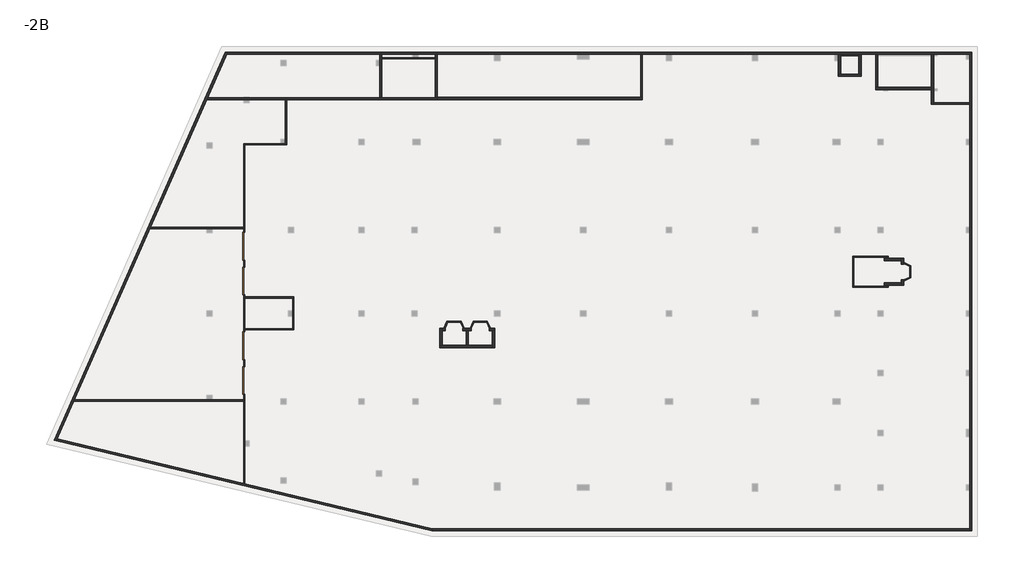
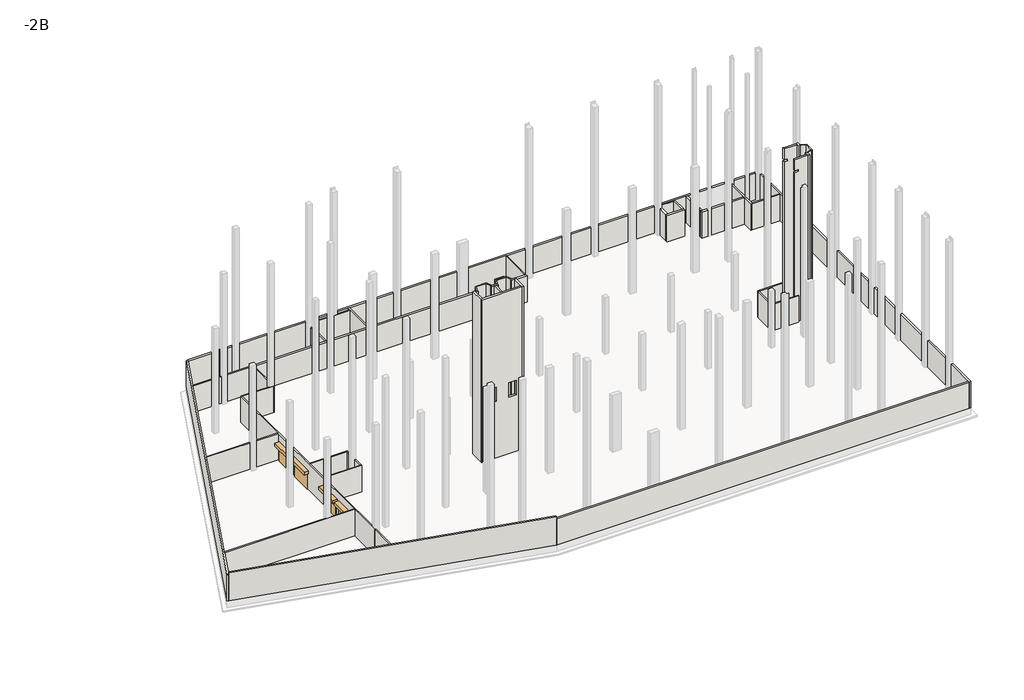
# One storey, part 1 of 2: 50 walls, 4 doors.
"""IFC4 building model written with IfcOpenShell, lengths in millimetres."""

from ifc_helpers import new_model, si_unit, frame, origin, place, context, project, spatial, polyline, outline, extrude, faceted_brep, transform, mapped, element, save
from components import m_overhead_rolling_3000_x_2400_5775203b, m_overhead_rolling_3000_x_2400_129daa51

model = new_model("IFC4")

# Units and contexts
model_context = context("Model", 3, world=origin())
ifc_project = project(units=[si_unit("LENGTHUNIT", "METRE", prefix="MILLI")], contexts=[model_context])

# Site, building, storey
site = spatial("IfcSite", under=ifc_project)
building = spatial("IfcBuilding", under=site)
storey = spatial("IfcBuildingStorey", under=building, Name="-2B", Elevation=-7500.0)

# Doors
placement = place(None, origin())
m_overhead_rolling_3000_x_2400_shape = m_overhead_rolling_3000_x_2400_5775203b(model_context)
element("IfcDoor", 1, ObjectType="M_Overhead-Rolling : 3000 x 2400", at=placement, inside=storey, context=model_context, shape_type="MappedRepresentation", body=[
    mapped(m_overhead_rolling_3000_x_2400_shape, transform((-35478.5865899, -3277.6148653, -7500.0), x_axis=(0.0, -1.0, 0.0), y_axis=(1.0, 0.0, 0.0), z_axis=(0.0, 0.0, 1.0))),
])
element("IfcDoor", 2, ObjectType="M_Overhead-Rolling : 3000 x 2400", at=placement, inside=storey, context=model_context, shape_type="MappedRepresentation", body=[
    mapped(m_overhead_rolling_3000_x_2400_shape, transform((-35478.5865899, 472.3851347, -7500.0), x_axis=(0.0, -1.0, 0.0), y_axis=(1.0, 0.0, 0.0), z_axis=(0.0, 0.0, 1.0))),
])
m_overhead_rolling_3000_x_2400_2_shape = m_overhead_rolling_3000_x_2400_129daa51(model_context)
element("IfcDoor", 3, ObjectType="M_Overhead-Rolling : 3000 x 2400", at=placement, inside=storey, context=model_context, shape_type="MappedRepresentation", body=[
    mapped(m_overhead_rolling_3000_x_2400_2_shape, transform((-35478.5865899, -10267.6148653, -7500.0), x_axis=(0.0, 1.0, 0.0), y_axis=(-1.0, 0.0, 0.0), z_axis=(0.0, 0.0, 1.0))),
])
element("IfcDoor", 4, ObjectType="M_Overhead-Rolling : 3000 x 2400", at=placement, inside=storey, context=model_context, shape_type="MappedRepresentation", body=[
    mapped(m_overhead_rolling_3000_x_2400_2_shape, transform((-35478.5865899, -14017.6148653, -7500.0), x_axis=(0.0, 1.0, 0.0), y_axis=(-1.0, 0.0, 0.0), z_axis=(0.0, 0.0, 1.0))),
])

# Walls
element("IfcWall", 5, ObjectType="Retaining - 230mm Concrete", at=placement, inside=storey, context=model_context, shape_type="Brep", body=[
    faceted_brep([(-37532.7792805, 21397.3851347, -7500.0), (-55964.7439578, -20459.7756347, -7500.0), (-55964.7439578, -20459.7756347, -3575.0), (-55959.4597108, -20447.7756347, -3575.0), (-53829.3970214, -15610.6148653, -3575.0), (-46126.2859605, 1882.3851347, -3575.0), (-37532.7792805, 21397.3851347, -3575.0), (-37281.466881, 21397.3851347, -7500.0), (-37281.466881, 21397.3851347, -3575.0), (-37382.7482818, 21167.3851347, -3575.0), (-39440.5221335, 16494.3851347, -3575.0), (-39553.69309, 16237.3851347, -3575.0), (-45598.2111245, 2510.8851347, -3575.0), (-45660.7413806, 2368.8851347, -3575.0), (-45874.973561, 1882.3851347, -3575.0), (-53578.0846218, -15610.6148653, -3575.0), (-53790.9957405, -16094.1148653, -3575.0), (-53853.5259966, -16236.1148653, -3575.0), (-55732.1393267, -20502.2591184, -3575.0), (-55737.3940597, -20514.192095, -3575.0), (-55737.3940597, -20514.192095, -7500.0), (-55643.1818049, -20300.2454233, -7500.0), (-53853.5259966, -16236.1148653, -7500.0), (-53790.9957405, -16094.1148653, -7500.0), (-45660.7413806, 2368.8851347, -7500.0), (-45598.2111245, 2510.8851347, -7500.0), (-39553.69309, 16237.3851347, -7500.0), (-39440.5221335, 16494.3851347, -7500.0), (-37382.7482818, 21167.3851347, -7500.0)], [[[0, 1, 2, 3, 4, 5, 6]], [[7, 8, 9, 10, 11, 12, 13, 14, 15, 16, 17, 18, 19, 20, 21, 22, 23, 24, 25, 26, 27, 28]], [[1, 0, 7, 28, 27, 26, 25, 24, 23, 22, 21, 20]], [[0, 6, 8, 7]], [[2, 1, 20, 19]], [[5, 4, 15, 14]], [[3, 2, 19, 18]], [[4, 3, 18, 17, 16, 15]], [[6, 5, 14, 13, 12, 11, 10, 9, 8]]]),
])
element("IfcWall", 6, ObjectType="Retaining - 230mm Concrete", at=placement, inside=storey, context=model_context, shape_type="Brep", body=[
    faceted_brep([(-55737.3940597, -20514.192095, -7500.0), (-15259.5328249, -30202.6148653, -7500.0), (-15259.5328249, -30202.6148653, -3300.0), (-55737.3940597, -20514.192095, -3300.0), (-55737.3940597, -20514.192095, -3575.0), (-15232.3907639, -29972.6148653, -7500.0), (-35407.5865899, -25143.658476, -7500.0), (-35549.5865899, -25109.6706122, -7500.0), (-55643.1818049, -20300.2454233, -7500.0), (-55643.1818049, -20300.2454233, -3575.0), (-55643.1818049, -20300.2454233, -3300.0), (-15232.3907639, -29972.6148653, -3300.0)], [[[0, 1, 2, 3, 4]], [[5, 6, 7, 8, 9, 10, 11]], [[1, 0, 8, 7, 6, 5]], [[3, 2, 11, 10]], [[2, 1, 5, 11]], [[3, 10, 9, 8, 0, 4]]]),
])
element("IfcWall", 7, ObjectType="Retaining - 230mm Concrete", at=placement, inside=storey, context=model_context, shape_type="Brep", body=[
    faceted_brep([(42962.4134101, 21397.3851347, -7500.0), (-37281.466881, 21397.3851347, -7500.0), (-37281.466881, 21397.3851347, -3575.0), (42962.4134101, 21397.3851347, -3575.0), (-37382.7482818, 21167.3851347, -7500.0), (-20894.5865899, 21167.3851347, -7500.0), (-20637.5865899, 21167.3851347, -7500.0), (-14914.5865899, 21167.3851347, -7500.0), (-14657.5865899, 21167.3851347, -7500.0), (7277.4134101, 21167.3851347, -7500.0), (7419.4134101, 21167.3851347, -7500.0), (32580.4134101, 21167.3851347, -7500.0), (32837.4134101, 21167.3851347, -7500.0), (38577.4134101, 21167.3851347, -7500.0), (38834.4134101, 21167.3851347, -7500.0), (42732.4134101, 21167.3851347, -7500.0), (42962.4134101, 21167.3851347, -7500.0), (42962.4134101, 21167.3851347, -3575.0), (42732.4134101, 21167.3851347, -3575.0), (38834.4134101, 21167.3851347, -3575.0), (38577.4134101, 21167.3851347, -3575.0), (32837.4134101, 21167.3851347, -3575.0), (32580.4134101, 21167.3851347, -3575.0), (7419.4134101, 21167.3851347, -3575.0), (7277.4134101, 21167.3851347, -3575.0), (-14657.5865899, 21167.3851347, -3575.0), (-14914.5865899, 21167.3851347, -3575.0), (-20637.5865899, 21167.3851347, -3575.0), (-20894.5865899, 21167.3851347, -3575.0), (-37382.7482818, 21167.3851347, -3575.0)], [[[0, 1, 2, 3]], [[4, 5, 6, 7, 8, 9, 10, 11, 12, 13, 14, 15, 16, 17, 18, 19, 20, 21, 22, 23, 24, 25, 26, 27, 28, 29]], [[1, 0, 16, 15, 14, 13, 12, 11, 10, 9, 8, 7, 6, 5, 4]], [[0, 3, 17, 16]], [[2, 1, 4, 29]], [[3, 2, 29, 28, 27, 26, 25, 24, 23, 22, 21, 20, 19, 18, 17]]]),
])
element("IfcWall", 8, ObjectType="Retaining - 230mm Concrete", at=placement, inside=storey, context=model_context, shape_type="Brep", body=[
    faceted_brep([(42962.4134101, -30202.6148653, -7500.0), (42962.4134101, 21167.3851347, -7500.0), (42962.4134101, 21167.3851347, -3575.0), (42962.4134101, -30202.6148653, -3575.0), (42732.4134101, -30202.6148653, -7500.0), (42732.4134101, -30202.6148653, -3575.0), (42732.4134101, -29972.6148653, -3575.0), (42732.4134101, 15789.6514713, -3575.0), (42732.4134101, 15931.6514713, -3575.0), (42732.4134101, 21167.3851347, -3575.0), (42732.4134101, 21167.3851347, -7500.0), (42732.4134101, 15931.6514713, -7500.0), (42732.4134101, 15789.6514713, -7500.0), (42732.4134101, -29972.6148653, -7500.0)], [[[0, 1, 2, 3]], [[4, 5, 6, 7, 8, 9, 10, 11, 12, 13]], [[1, 0, 4, 13, 12, 11, 10]], [[0, 3, 5, 4]], [[2, 1, 10, 9]], [[3, 2, 9, 8, 7, 6, 5]]]),
])
element("IfcWall", 9, ObjectType="Retaining - 230mm Concrete", at=placement, inside=storey, context=model_context, shape_type="SweptSolid", body=[
    extrude(outline(polyline([(42732.4134101, -30202.6148653), (-15259.5328249, -30202.6148653), (-15232.3907639, -29972.6148653), (42732.4134101, -29972.6148653), (42732.4134101, -30202.6148653)])), frame((0.0, 0.0, -7500.0), z_axis=(0.0, 0.0, 1.0), x_axis=(1.0, 0.0, 0.0)), (0.0, 0.0, 1.0), 3925.0),
])
element("IfcWall", 10, ObjectType="lift-glass", at=placement, inside=storey, context=model_context, shape_type="Brep", body=[
    faceted_brep([(-13832.8285254, -8397.6148653, -7500.0), (-13547.5865899, -7742.6148653, -7500.0), (-13493.151106, -7617.6148653, -7500.0), (-13493.151106, -7617.6148653, 16650.0), (-13547.5865899, -7742.6148653, 16650.0), (-13832.8285254, -8397.6148653, 16650.0), (-13629.4897356, -7617.6148653, -7500.0), (-13969.1671549, -8397.6148653, -7500.0), (-13969.1671549, -8397.6148653, 16650.0), (-13629.4897356, -7617.6148653, 16650.0)], [[[0, 1, 2, 3, 4, 5]], [[6, 7, 8, 9]], [[2, 1, 0, 7, 6]], [[5, 4, 3, 9, 8]], [[3, 2, 6, 9]], [[0, 5, 8, 7]]]),
])
element("IfcWall", 11, ObjectType="lift-glass", at=placement, inside=storey, context=model_context, shape_type="Brep", body=[
    faceted_brep([(-13547.5865899, -7742.6148653, -7500.0), (-12187.5865899, -7742.6148653, -7500.0), (-12051.2479604, -7742.6148653, -7500.0), (-12051.2479604, -7742.6148653, 16650.0), (-12187.5865899, -7742.6148653, 16650.0), (-13547.5865899, -7742.6148653, 16650.0), (-12105.6834442, -7617.6148653, -7500.0), (-13493.151106, -7617.6148653, -7500.0), (-13493.151106, -7617.6148653, 16650.0), (-12105.6834442, -7617.6148653, 16650.0)], [[[0, 1, 2, 3, 4, 5]], [[6, 7, 8, 9]], [[2, 1, 0, 7, 6]], [[5, 4, 3, 9, 8]], [[3, 2, 6, 9]], [[0, 5, 8, 7]]]),
])
element("IfcWall", 12, ObjectType="lift-glass", at=placement, inside=storey, context=model_context, shape_type="SweptSolid", body=[
    extrude(outline(polyline([(-11902.3446544, -8397.6148653), (-12187.5865899, -7742.6148653), (-12051.2479604, -7742.6148653), (-11766.0060249, -8397.6148653), (-11902.3446544, -8397.6148653)])), frame((0.0, 0.0, -7500.0), z_axis=(0.0, 0.0, 1.0), x_axis=(1.0, 0.0, 0.0)), (0.0, 0.0, 1.0), 24150.0),
])
element("IfcWall", 13, ObjectType="lift-glass", at=placement, inside=storey, context=model_context, shape_type="Brep", body=[
    faceted_brep([(-11002.8285254, -8397.6148653, -7500.0), (-10717.5865899, -7742.6148653, -7500.0), (-10663.151106, -7617.6148653, -7500.0), (-10663.151106, -7617.6148653, 16650.0), (-10717.5865899, -7742.6148653, 16650.0), (-11002.8285254, -8397.6148653, 16650.0), (-10799.4897356, -7617.6148653, -7500.0), (-11139.1671549, -8397.6148653, -7500.0), (-11139.1671549, -8397.6148653, 16650.0), (-10799.4897356, -7617.6148653, 16650.0)], [[[0, 1, 2, 3, 4, 5]], [[6, 7, 8, 9]], [[2, 1, 0, 7, 6]], [[5, 4, 3, 9, 8]], [[3, 2, 6, 9]], [[0, 5, 8, 7]]]),
])
element("IfcWall", 14, ObjectType="lift-glass", at=placement, inside=storey, context=model_context, shape_type="Brep", body=[
    faceted_brep([(-10717.5865899, -7742.6148653, -7500.0), (-9357.5865899, -7742.6148653, -7500.0), (-9221.2479604, -7742.6148653, -7500.0), (-9221.2479604, -7742.6148653, 16650.0), (-9357.5865899, -7742.6148653, 16650.0), (-10717.5865899, -7742.6148653, 16650.0), (-9275.6834442, -7617.6148653, -7500.0), (-10663.151106, -7617.6148653, -7500.0), (-10663.151106, -7617.6148653, 16650.0), (-9275.6834442, -7617.6148653, 16650.0)], [[[0, 1, 2, 3, 4, 5]], [[6, 7, 8, 9]], [[2, 1, 0, 7, 6]], [[5, 4, 3, 9, 8]], [[3, 2, 6, 9]], [[0, 5, 8, 7]]]),
])
element("IfcWall", 15, ObjectType="lift-glass", at=placement, inside=storey, context=model_context, shape_type="SweptSolid", body=[
    extrude(outline(polyline([(-9072.3446544, -8397.6148653), (-9357.5865899, -7742.6148653), (-9221.2479604, -7742.6148653), (-8936.0060249, -8397.6148653), (-9072.3446544, -8397.6148653)])), frame((0.0, 0.0, -7500.0), z_axis=(0.0, 0.0, 1.0), x_axis=(1.0, 0.0, 0.0)), (0.0, 0.0, 1.0), 24150.0),
])
element("IfcWall", 16, ObjectType="lift-glass", at=placement, inside=storey, context=model_context, shape_type="Brep", body=[
    faceted_brep([(35607.4134101, -1422.415349, -7500.0), (36262.4134101, -1707.6572845, -7500.0), (36387.4134101, -1762.0927684, -7500.0), (36387.4134101, -1762.0927684, 16650.0), (36262.4134101, -1707.6572845, 16650.0), (35607.4134101, -1422.415349, 16650.0), (36387.4134101, -1625.7541388, -7500.0), (35607.4134101, -1286.0767195, -7500.0), (35607.4134101, -1286.0767195, 16650.0), (36387.4134101, -1625.7541388, 16650.0)], [[[0, 1, 2, 3, 4, 5]], [[6, 7, 8, 9]], [[2, 1, 0, 7, 6]], [[5, 4, 3, 9, 8]], [[3, 2, 6, 9]], [[0, 5, 8, 7]]]),
])
element("IfcWall", 17, ObjectType="lift-glass", at=placement, inside=storey, context=model_context, shape_type="Brep", body=[
    faceted_brep([(36262.4134101, -1707.6572845, -7500.0), (36262.4134101, -2867.6572845, -7500.0), (36262.4134101, -3003.995914, -7500.0), (36262.4134101, -3003.995914, 16650.0), (36262.4134101, -2867.6572845, 16650.0), (36262.4134101, -1707.6572845, 16650.0), (36387.4134101, -2949.5604302, -7500.0), (36387.4134101, -1762.0927684, -7500.0), (36387.4134101, -1762.0927684, 16650.0), (36387.4134101, -2949.5604302, 16650.0)], [[[0, 1, 2, 3, 4, 5]], [[6, 7, 8, 9]], [[2, 1, 0, 7, 6]], [[5, 4, 3, 9, 8]], [[3, 2, 6, 9]], [[0, 5, 8, 7]]]),
])
element("IfcWall", 18, ObjectType="lift-glass", at=placement, inside=storey, context=model_context, shape_type="SweptSolid", body=[
    extrude(outline(polyline([(35607.4134101, -3152.89922), (36262.4134101, -2867.6572845), (36262.4134101, -3003.995914), (35607.4134101, -3289.2378495), (35607.4134101, -3152.89922)])), frame((0.0, 0.0, -7500.0), z_axis=(0.0, 0.0, 1.0), x_axis=(1.0, 0.0, 0.0)), (0.0, 0.0, 1.0), 24150.0),
])
element("IfcWall", 19, ObjectType="wall-115", at=placement, inside=storey, context=model_context, shape_type="Brep", body=[
    faceted_brep([(-31064.5865899, 16237.3851347, -7500.0), (-31064.5865899, 11524.3851347, -7500.0), (-31064.5865899, 11382.3851347, -7500.0), (-31064.5865899, 11382.3851347, -3575.0), (-31064.5865899, 11524.3851347, -3575.0), (-31064.5865899, 16237.3851347, -3575.0), (-30922.5865899, 16237.3851347, -7500.0), (-30922.5865899, 16237.3851347, -3575.0), (-30922.5865899, 11382.3851347, -3575.0), (-30922.5865899, 11382.3851347, -7500.0)], [[[0, 1, 2, 3, 4, 5]], [[6, 7, 8, 9]], [[2, 1, 0, 6, 9]], [[3, 2, 9, 8]], [[0, 5, 7, 6]], [[5, 4, 3, 8, 7]]]),
])
element("IfcWall", 20, ObjectType="wall-115", at=placement, inside=storey, context=model_context, shape_type="Brep", body=[
    faceted_brep([(33947.4134101, -594.1148653, -7500.0), (30103.9134101, -594.1148653, -7500.0), (30103.9134101, -594.1148653, -3575.0), (33947.4134101, -594.1148653, -3575.0), (33947.4134101, -736.1148653, -7500.0), (33947.4134101, -736.1148653, -3575.0), (30245.9134101, -736.1148653, -3575.0), (30103.9134101, -736.1148653, -3575.0), (30103.9134101, -736.1148653, -7500.0), (30245.9134101, -736.1148653, -7500.0)], [[[0, 1, 2, 3]], [[4, 5, 6, 7, 8, 9]], [[1, 0, 4, 9, 8]], [[0, 3, 5, 4]], [[2, 1, 8, 7]], [[3, 2, 7, 6, 5]]]),
])
element("IfcWall", 21, ObjectType="wall-115", at=placement, inside=storey, context=model_context, shape_type="Brep", body=[
    faceted_brep([(33947.4134101, -3839.1148653, -7500.0), (30245.9134101, -3839.1148653, -7500.0), (30103.9134101, -3839.1148653, -7500.0), (30103.9134101, -3839.1148653, -3575.0), (30245.9134101, -3839.1148653, -3575.0), (33947.4134101, -3839.1148653, -3575.0), (33947.4134101, -3981.1148653, -7500.0), (33947.4134101, -3981.1148653, -3575.0), (30103.9134101, -3981.1148653, -3575.0), (30103.9134101, -3981.1148653, -7500.0)], [[[0, 1, 2, 3, 4, 5]], [[6, 7, 8, 9]], [[2, 1, 0, 6, 9]], [[0, 5, 7, 6]], [[3, 2, 9, 8]], [[5, 4, 3, 8, 7]]]),
])
element("IfcWall", 22, ObjectType="wall-115", at=placement, inside=storey, context=model_context, shape_type="SweptSolid", body=[
    extrude(outline(polyline([(30103.9134101, -3839.1148653), (30103.9134101, -736.1148653), (30245.9134101, -736.1148653), (30245.9134101, -3839.1148653), (30103.9134101, -3839.1148653)])), frame((0.0, 0.0, -7500.0), z_axis=(0.0, 0.0, 1.0), x_axis=(1.0, 0.0, 0.0)), (0.0, 0.0, 1.0), 3925.0),
])
element("IfcWall", 23, ObjectType="wall-115", at=placement, inside=storey, context=model_context, shape_type="Brep", body=[
    faceted_brep([(-35549.5865899, -11767.6148653, -7500.0), (-35549.5865899, -12517.6148653, -7500.0), (-35549.5865899, -12517.6148653, -5100.0), (-35549.5865899, -15517.6148653, -5100.0), (-35549.5865899, -15517.6148653, -7500.0), (-35549.5865899, -16094.1148653, -7500.0), (-35549.5865899, -16236.1148653, -7500.0), (-35549.5865899, -25109.6706122, -7500.0), (-35549.5865899, -25109.6706122, -3575.0), (-35549.5865899, -16236.1148653, -3575.0), (-35549.5865899, -16094.1148653, -3575.0), (-35549.5865899, -15610.6148653, -3575.0), (-35549.5865899, 1882.3851347, -3575.0), (-35549.5865899, 2368.8851347, -3575.0), (-35549.5865899, 2510.8851347, -3575.0), (-35549.5865899, 11524.3851347, -3575.0), (-35549.5865899, 11524.3851347, -7500.0), (-35549.5865899, 2510.8851347, -7500.0), (-35549.5865899, 2368.8851347, -7500.0), (-35549.5865899, 1972.3851347, -7500.0), (-35549.5865899, 1972.3851347, -5100.0), (-35549.5865899, -1027.6148653, -5100.0), (-35549.5865899, -1027.6148653, -7500.0), (-35549.5865899, -1777.6148653, -7500.0), (-35549.5865899, -1777.6148653, -5100.0), (-35549.5865899, -4777.6148653, -5100.0), (-35549.5865899, -4777.6148653, -7500.0), (-35549.5865899, -8767.6148653, -7500.0), (-35549.5865899, -8767.6148653, -5100.0), (-35549.5865899, -11767.6148653, -5100.0), (-35407.5865899, -12517.6148653, -5100.0), (-35407.5865899, -12517.6148653, -7500.0), (-35407.5865899, -11767.6148653, -7500.0), (-35407.5865899, -11767.6148653, -5100.0), (-35407.5865899, -8767.6148653, -5100.0), (-35407.5865899, -8767.6148653, -7500.0), (-35407.5865899, -8552.6148653, -7500.0), (-35407.5865899, -8410.6148653, -7500.0), (-35407.5865899, -5137.6148653, -7500.0), (-35407.5865899, -4995.6148653, -7500.0), (-35407.5865899, -4777.6148653, -7500.0), (-35407.5865899, -4777.6148653, -5100.0), (-35407.5865899, -1777.6148653, -5100.0), (-35407.5865899, -1777.6148653, -7500.0), (-35407.5865899, -1027.6148653, -7500.0), (-35407.5865899, -1027.6148653, -5100.0), (-35407.5865899, 1972.3851347, -5100.0), (-35407.5865899, 1972.3851347, -7500.0), (-35407.5865899, 11382.3851347, -7500.0), (-35407.5865899, 11524.3851347, -7500.0), (-35407.5865899, 11524.3851347, -3575.0), (-35407.5865899, 11382.3851347, -3575.0), (-35407.5865899, -4995.6148653, -3575.0), (-35407.5865899, -5137.6148653, -3575.0), (-35407.5865899, -8410.6148653, -3575.0), (-35407.5865899, -8552.6148653, -3575.0), (-35407.5865899, -25143.658476, -3575.0), (-35407.5865899, -25143.658476, -7500.0), (-35407.5865899, -15517.6148653, -7500.0), (-35407.5865899, -15517.6148653, -5100.0)], [[[0, 1, 2, 3, 4, 5, 6, 7, 8, 9, 10, 11, 12, 13, 14, 15, 16, 17, 18, 19, 20, 21, 22, 23, 24, 25, 26, 27, 28, 29]], [[30, 31, 32, 33, 34, 35, 36, 37, 38, 39, 40, 41, 42, 43, 44, 45, 46, 47, 48, 49, 50, 51, 52, 53, 54, 55, 56, 57, 58, 59]], [[40, 39, 38, 37, 36, 35, 27, 26]], [[23, 22, 44, 43]], [[19, 18, 17, 16, 49, 48, 47]], [[32, 31, 1, 0]], [[58, 57, 7, 6, 5, 4]], [[16, 15, 50, 49]], [[8, 7, 57, 56]], [[15, 14, 13, 12, 11, 10, 9, 8, 56, 55, 54, 53, 52, 51, 50]], [[41, 40, 26, 25]], [[42, 41, 25, 24]], [[43, 42, 24, 23]], [[45, 44, 22, 21]], [[46, 45, 21, 20]], [[47, 46, 20, 19]], [[28, 27, 35, 34]], [[29, 28, 34, 33]], [[0, 29, 33, 32]], [[2, 1, 31, 30]], [[3, 2, 30, 59]], [[4, 3, 59, 58]]]),
])
element("IfcWall", 24, ObjectType="wall-115", at=placement, inside=storey, context=model_context, shape_type="Brep", body=[
    faceted_brep([(-30125.5865899, -8410.6148653, -7500.0), (-30267.5865899, -8410.6148653, -7500.0), (-35407.5865899, -8410.6148653, -7500.0), (-35407.5865899, -8410.6148653, -3575.0), (-30267.5865899, -8410.6148653, -3575.0), (-30125.5865899, -8410.6148653, -3575.0), (-30125.5865899, -8552.6148653, -7500.0), (-30125.5865899, -8552.6148653, -3575.0), (-35407.5865899, -8552.6148653, -3575.0), (-35407.5865899, -8552.6148653, -7500.0)], [[[0, 1, 2, 3, 4, 5]], [[6, 7, 8, 9]], [[2, 1, 0, 6, 9]], [[0, 5, 7, 6]], [[3, 2, 9, 8]], [[5, 4, 3, 8, 7]]]),
])
element("IfcWall", 25, ObjectType="wall-115", at=placement, inside=storey, context=model_context, shape_type="Brep", body=[
    faceted_brep([(-30125.5865899, -4995.6148653, -7500.0), (-35407.5865899, -4995.6148653, -7500.0), (-35407.5865899, -4995.6148653, -3575.0), (-30125.5865899, -4995.6148653, -3575.0), (-30125.5865899, -5137.6148653, -7500.0), (-30125.5865899, -5137.6148653, -3575.0), (-30267.5865899, -5137.6148653, -3575.0), (-35407.5865899, -5137.6148653, -3575.0), (-35407.5865899, -5137.6148653, -7500.0), (-30267.5865899, -5137.6148653, -7500.0)], [[[0, 1, 2, 3]], [[4, 5, 6, 7, 8, 9]], [[1, 0, 4, 9, 8]], [[0, 3, 5, 4]], [[2, 1, 8, 7]], [[3, 2, 7, 6, 5]]]),
])
element("IfcWall", 26, ObjectType="wall-115", at=placement, inside=storey, context=model_context, shape_type="SweptSolid", body=[
    extrude(outline(polyline([(-30125.5865899, -5137.6148653), (-30125.5865899, -8410.6148653), (-30267.5865899, -8410.6148653), (-30267.5865899, -5137.6148653), (-30125.5865899, -5137.6148653)])), frame((0.0, 0.0, -7500.0), z_axis=(0.0, 0.0, 1.0), x_axis=(1.0, 0.0, 0.0)), (0.0, 0.0, 1.0), 3925.0),
])
element("IfcWall", 27, ObjectType="wall-115", at=placement, inside=storey, context=model_context, shape_type="SweptSolid", body=[
    extrude(outline(polyline([(-35407.5865899, 11524.3851347), (-31064.5865899, 11524.3851347), (-31064.5865899, 11382.3851347), (-35407.5865899, 11382.3851347), (-35407.5865899, 11524.3851347)])), frame((0.0, 0.0, -7500.0), z_axis=(0.0, 0.0, 1.0), x_axis=(1.0, 0.0, 0.0)), (0.0, 0.0, 1.0), 3925.0),
])
element("IfcWall", 28, ObjectType="wall-115", at=placement, inside=storey, context=model_context, shape_type="SweptSolid", body=[
    extrude(outline(polyline([(-45598.2111245, 2510.8851347), (-35549.5865899, 2510.8851347), (-35549.5865899, 2368.8851347), (-45660.7413806, 2368.8851347), (-45598.2111245, 2510.8851347)])), frame((0.0, 0.0, -7500.0), z_axis=(0.0, 0.0, 1.0), x_axis=(1.0, 0.0, 0.0)), (0.0, 0.0, 1.0), 3925.0),
])
element("IfcWall", 29, ObjectType="wall-115", at=placement, inside=storey, context=model_context, shape_type="SweptSolid", body=[
    extrude(outline(polyline([(7419.4134101, 21167.3851347), (7419.4134101, 16514.3851347), (7277.4134101, 16514.3851347), (7277.4134101, 21167.3851347), (7419.4134101, 21167.3851347)])), frame((0.0, 0.0, -7500.0), z_axis=(0.0, 0.0, 1.0), x_axis=(1.0, 0.0, 0.0)), (0.0, 0.0, 1.0), 3925.0),
])
element("IfcWall", 30, ObjectType="wall-115", at=placement, inside=storey, context=model_context, shape_type="SweptSolid", body=[
    extrude(outline(polyline([(-53790.9957405, -16094.1148653), (-35549.5865899, -16094.1148653), (-35549.5865899, -16236.1148653), (-53853.5259966, -16236.1148653), (-53790.9957405, -16094.1148653)])), frame((0.0, 0.0, -7500.0), z_axis=(0.0, 0.0, 1.0), x_axis=(1.0, 0.0, 0.0)), (0.0, 0.0, 1.0), 3925.0),
])
element("IfcWall", 31, ObjectType="wall-115", at=placement, inside=storey, context=model_context, shape_type="SweptSolid", body=[
    extrude(outline(polyline([(28802.4134101, 21144.3851347), (30772.4134101, 21144.3851347), (30772.4134101, 21002.3851347), (28802.4134101, 21002.3851347), (28802.4134101, 21144.3851347)])), frame((0.0, 0.0, -7500.0), z_axis=(0.0, 0.0, 1.0), x_axis=(1.0, 0.0, 0.0)), (0.0, 0.0, 1.0), 3925.0),
])
element("IfcWall", 32, ObjectType="wall-115", at=placement, inside=storey, context=model_context, shape_type="SweptSolid", body=[
    extrude(outline(polyline([(42732.4134101, 15789.6514713), (38834.4134101, 15789.6514713), (38834.4134101, 15931.6514713), (42732.4134101, 15931.6514713), (42732.4134101, 15789.6514713)])), frame((0.0, 0.0, -7500.0), z_axis=(0.0, 0.0, 1.0), x_axis=(1.0, 0.0, 0.0)), (0.0, 0.0, 1.0), 3925.0),
])
element("IfcWall", 33, ObjectType="wall-115", at=placement, inside=storey, context=model_context, shape_type="SweptSolid", body=[
    extrude(outline(polyline([(-14914.5865899, 20655.3851347), (-20637.5865899, 20655.3851347), (-20637.5865899, 20797.3851347), (-14914.5865899, 20797.3851347), (-14914.5865899, 20655.3851347)])), frame((0.0, 0.0, -7500.0), z_axis=(0.0, 0.0, 1.0), x_axis=(1.0, 0.0, 0.0)), (0.0, 0.0, 1.0), 3925.0),
])
element("IfcWall", 34, ObjectType="wall-230", at=placement, inside=storey, context=model_context, shape_type="Brep", body=[
    faceted_brep([(-14657.5865899, 16494.3851347, -7500.0), (-14914.5865899, 16494.3851347, -7500.0), (-20637.5865899, 16494.3851347, -7500.0), (-20894.5865899, 16494.3851347, -7500.0), (-39440.5221335, 16494.3851347, -7500.0), (-39440.5221335, 16494.3851347, -3575.0), (-20894.5865899, 16494.3851347, -3575.0), (-20637.5865899, 16494.3851347, -3575.0), (-14914.5865899, 16494.3851347, -3575.0), (-14657.5865899, 16494.3851347, -3575.0), (-14657.5865899, 16237.3851347, -7500.0), (-14657.5865899, 16237.3851347, -3575.0), (-30922.5865899, 16237.3851347, -3575.0), (-31064.5865899, 16237.3851347, -3575.0), (-39553.69309, 16237.3851347, -3575.0), (-39553.69309, 16237.3851347, -7500.0), (-31064.5865899, 16237.3851347, -7500.0), (-30922.5865899, 16237.3851347, -7500.0), (-14657.5865899, 16257.3851347, -7500.0), (-14657.5865899, 16257.3851347, -3575.0)], [[[0, 1, 2, 3, 4, 5, 6, 7, 8, 9]], [[10, 11, 12, 13, 14, 15, 16, 17]], [[4, 3, 2, 1, 0, 18, 10, 17, 16, 15]], [[0, 9, 19, 11, 10, 18]], [[5, 4, 15, 14]], [[9, 8, 7, 6, 5, 14, 13, 12, 11, 19]]]),
])
element("IfcWall", 35, ObjectType="wall-230", at=placement, inside=storey, context=model_context, shape_type="Brep", body=[
    faceted_brep([(-9087.5865899, -8654.6148653, -7500.0), (-8749.5865899, -8654.6148653, -7500.0), (-8492.5865899, -8654.6148653, -7500.0), (-8492.5865899, -8654.6148653, -3300.0), (-8495.5865899, -8654.6148653, -3300.0), (-8637.5865899, -8654.6148653, -3300.0), (-8637.5865899, -8654.6148653, 0.0), (-8495.5865899, -8654.6148653, 0.0), (-8492.5865899, -8654.6148653, 0.0), (-8492.5865899, -8654.6148653, 16650.0), (-8749.5865899, -8654.6148653, 16650.0), (-9087.5865899, -8654.6148653, 16650.0), (-8492.5865899, -8397.6148653, -7500.0), (-8936.0060249, -8397.6148653, -7500.0), (-9072.3446544, -8397.6148653, -7500.0), (-9087.5865899, -8397.6148653, -7500.0), (-9087.5865899, -8397.6148653, 16650.0), (-9072.3446544, -8397.6148653, 16650.0), (-8936.0060249, -8397.6148653, 16650.0), (-8492.5865899, -8397.6148653, 16650.0), (-8492.5865899, -8397.6148653, 0.0), (-8637.5865899, -8397.6148653, 0.0), (-8637.5865899, -8397.6148653, -3300.0), (-8492.5865899, -8397.6148653, -3300.0)], [[[0, 1, 2, 3, 4, 5, 6, 7, 8, 9, 10, 11]], [[12, 13, 14, 15, 16, 17, 18, 19, 20, 21, 22, 23]], [[2, 1, 0, 15, 14, 13, 12]], [[11, 10, 9, 19, 18, 17, 16]], [[0, 11, 16, 15]], [[5, 4, 3, 23, 22]], [[8, 7, 6, 21, 20]], [[3, 2, 12, 23]], [[6, 5, 22, 21]], [[9, 8, 20, 19]]]),
])
element("IfcWall", 36, ObjectType="wall-230", at=placement, inside=storey, context=model_context, shape_type="Brep", body=[
    faceted_brep([(-8749.5865899, -8654.6148653, -7500.0), (-8749.5865899, -10230.6148653, -7500.0), (-8749.5865899, -10487.6148653, -7500.0), (-8749.5865899, -10487.6148653, 16650.0), (-8749.5865899, -10230.6148653, 16650.0), (-8749.5865899, -8654.6148653, 16650.0), (-8492.5865899, -10487.6148653, -7500.0), (-8492.5865899, -8654.6148653, -7500.0), (-8492.5865899, -8654.6148653, -3300.0), (-8492.5865899, -8654.6148653, 0.0), (-8492.5865899, -8654.6148653, 16650.0), (-8492.5865899, -10487.6148653, 16650.0)], [[[0, 1, 2, 3, 4, 5]], [[6, 7, 8, 9, 10, 11]], [[2, 1, 0, 7, 6]], [[5, 4, 3, 11, 10]], [[3, 2, 6, 11]], [[7, 0, 5, 10, 9, 8]]]),
])
element("IfcWall", 37, ObjectType="wall-230", at=placement, inside=storey, context=model_context, shape_type="Brep", body=[
    faceted_brep([(-8749.5865899, -10230.6148653, -7500.0), (-11322.5865899, -10230.6148653, -7500.0), (-11579.5865899, -10230.6148653, -7500.0), (-14155.5865899, -10230.6148653, -7500.0), (-14412.5865899, -10230.6148653, -7500.0), (-14412.5865899, -10230.6148653, 16650.0), (-14155.5865899, -10230.6148653, 16650.0), (-11579.5865899, -10230.6148653, 16650.0), (-11322.5865899, -10230.6148653, 16650.0), (-8749.5865899, -10230.6148653, 16650.0), (-12342.5865899, -10230.6148653, 3000.0), (-13392.5865899, -10230.6148653, 3000.0), (-13392.5865899, -10230.6148653, 900.0), (-12342.5865899, -10230.6148653, 900.0), (-9512.5865899, -10230.6148653, 3000.0), (-10562.5865899, -10230.6148653, 3000.0), (-10562.5865899, -10230.6148653, 900.0), (-9512.5865899, -10230.6148653, 900.0), (-14412.5865899, -10487.6148653, -7500.0), (-8749.5865899, -10487.6148653, -7500.0), (-8749.5865899, -10487.6148653, 16650.0), (-14412.5865899, -10487.6148653, 16650.0), (-13392.5865899, -10487.6148653, 3000.0), (-12342.5865899, -10487.6148653, 3000.0), (-12342.5865899, -10487.6148653, 900.0), (-13392.5865899, -10487.6148653, 900.0), (-10562.5865899, -10487.6148653, 3000.0), (-9512.5865899, -10487.6148653, 3000.0), (-9512.5865899, -10487.6148653, 900.0), (-10562.5865899, -10487.6148653, 900.0)], [[[0, 1, 2, 3, 4, 5, 6, 7, 8, 9], [10, 11, 12, 13], [14, 15, 16, 17]], [[18, 19, 20, 21], [22, 23, 24, 25], [26, 27, 28, 29]], [[4, 3, 2, 1, 0, 19, 18]], [[9, 8, 7, 6, 5, 21, 20]], [[5, 4, 18, 21]], [[0, 9, 20, 19]], [[10, 23, 22, 11]], [[25, 12, 11, 22]], [[12, 25, 24, 13]], [[23, 10, 13, 24]], [[15, 14, 27, 26]], [[16, 15, 26, 29]], [[17, 16, 29, 28]], [[14, 17, 28, 27]]]),
])
element("IfcWall", 38, ObjectType="wall-230", at=placement, inside=storey, context=model_context, shape_type="Brep", body=[
    faceted_brep([(-14155.5865899, -10230.6148653, -7500.0), (-14155.5865899, -8654.6148653, -7500.0), (-14155.5865899, -8397.6148653, -7500.0), (-14155.5865899, -8397.6148653, 16650.0), (-14155.5865899, -8654.6148653, 16650.0), (-14155.5865899, -10230.6148653, 16650.0), (-14412.5865899, -8397.6148653, -7500.0), (-14412.5865899, -10230.6148653, -7500.0), (-14412.5865899, -10230.6148653, 16650.0), (-14412.5865899, -8397.6148653, 16650.0)], [[[0, 1, 2, 3, 4, 5]], [[6, 7, 8, 9]], [[2, 1, 0, 7, 6]], [[5, 4, 3, 9, 8]], [[2, 6, 9, 3]], [[0, 5, 8, 7]]]),
])
element("IfcWall", 39, ObjectType="wall-230", at=placement, inside=storey, context=model_context, shape_type="Brep", body=[
    faceted_brep([(-14155.5865899, -8654.6148653, -7500.0), (-13817.5865899, -8654.6148653, -7500.0), (-13817.5865899, -8654.6148653, 16650.0), (-14155.5865899, -8654.6148653, 16650.0), (-13817.5865899, -8397.6148653, -7500.0), (-13832.8285254, -8397.6148653, -7500.0), (-13969.1671549, -8397.6148653, -7500.0), (-14155.5865899, -8397.6148653, -7500.0), (-14155.5865899, -8397.6148653, 16650.0), (-13969.1671549, -8397.6148653, 16650.0), (-13832.8285254, -8397.6148653, 16650.0), (-13817.5865899, -8397.6148653, 16650.0)], [[[0, 1, 2, 3]], [[4, 5, 6, 7, 8, 9, 10, 11]], [[1, 0, 7, 6, 5, 4]], [[2, 1, 4, 11]], [[3, 2, 11, 10, 9, 8]], [[7, 0, 3, 8]]]),
])
element("IfcWall", 40, ObjectType="wall-230", at=placement, inside=storey, context=model_context, shape_type="Brep", body=[
    faceted_brep([(-11917.5865899, -8654.6148653, -7500.0), (-11579.5865899, -8654.6148653, -7500.0), (-11322.5865899, -8654.6148653, -7500.0), (-10987.5865899, -8654.6148653, -7500.0), (-10987.5865899, -8654.6148653, 16650.0), (-11322.5865899, -8654.6148653, 16650.0), (-11579.5865899, -8654.6148653, 16650.0), (-11917.5865899, -8654.6148653, 16650.0), (-10987.5865899, -8397.6148653, -7500.0), (-11002.8285254, -8397.6148653, -7500.0), (-11139.1671549, -8397.6148653, -7500.0), (-11766.0060249, -8397.6148653, -7500.0), (-11902.3446544, -8397.6148653, -7500.0), (-11917.5865899, -8397.6148653, -7500.0), (-11917.5865899, -8397.6148653, 16650.0), (-11902.3446544, -8397.6148653, 16650.0), (-11766.0060249, -8397.6148653, 16650.0), (-11139.1671549, -8397.6148653, 16650.0), (-11002.8285254, -8397.6148653, 16650.0), (-10987.5865899, -8397.6148653, 16650.0)], [[[0, 1, 2, 3, 4, 5, 6, 7]], [[8, 9, 10, 11, 12, 13, 14, 15, 16, 17, 18, 19]], [[3, 2, 1, 0, 13, 12, 11, 10, 9, 8]], [[4, 3, 8, 19]], [[7, 6, 5, 4, 19, 18, 17, 16, 15, 14]], [[0, 7, 14, 13]]]),
])
element("IfcWall", 41, ObjectType="wall-230", at=placement, inside=storey, context=model_context, shape_type="SweptSolid", body=[
    extrude(outline(polyline([(-11579.5865899, -10230.6148653), (-11579.5865899, -8654.6148653), (-11322.5865899, -8654.6148653), (-11322.5865899, -10230.6148653), (-11579.5865899, -10230.6148653)])), frame((0.0, 0.0, -7500.0), z_axis=(0.0, 0.0, 1.0), x_axis=(1.0, 0.0, 0.0)), (0.0, 0.0, 1.0), 24150.0),
])
element("IfcWall", 42, ObjectType="wall-230", at=placement, inside=storey, context=model_context, shape_type="Brep", body=[
    faceted_brep([(35350.4134101, -3137.6572845, -7500.0), (35350.4134101, -3475.6572845, -7500.0), (35350.4134101, -3732.6572845, -7500.0), (35350.4134101, -3732.6572845, 16650.0), (35350.4134101, -3475.6572845, 16650.0), (35350.4134101, -3137.6572845, 16650.0), (35607.4134101, -3732.6572845, -7500.0), (35607.4134101, -3289.2378495, -7500.0), (35607.4134101, -3152.89922, -7500.0), (35607.4134101, -3137.6572845, -7500.0), (35607.4134101, -3137.6572845, 16650.0), (35607.4134101, -3152.89922, 16650.0), (35607.4134101, -3289.2378495, 16650.0), (35607.4134101, -3732.6572845, 16650.0)], [[[0, 1, 2, 3, 4, 5]], [[6, 7, 8, 9, 10, 11, 12, 13]], [[2, 1, 0, 9, 8, 7, 6]], [[5, 4, 3, 13, 12, 11, 10]], [[0, 5, 10, 9]], [[3, 2, 6, 13]]]),
])
element("IfcWall", 43, ObjectType="wall-230", at=placement, inside=storey, context=model_context, shape_type="Brep", body=[
    faceted_brep([(33520.4134101, -1099.6572845, -7500.0), (35350.4134101, -1099.6572845, -7500.0), (35350.4134101, -1099.6572845, 16650.0), (33520.4134101, -1099.6572845, 16650.0), (33520.4134101, -1099.6572845, 15000.0), (34077.4134101, -1099.6572845, 15000.0), (34077.4134101, -1099.6572845, 14725.0), (33520.4134101, -1099.6572845, 14725.0), (33520.4134101, -1099.6572845, 4650.0), (33520.4134101, -1099.6572845, 900.0), (35350.4134101, -842.6572845, -7500.0), (33520.4134101, -842.6572845, -7500.0), (33520.4134101, -842.6572845, 14725.0), (34077.4134101, -842.6572845, 14725.0), (34077.4134101, -842.6572845, 15000.0), (33820.4134101, -842.6572845, 15000.0), (33520.4134101, -842.6572845, 15000.0), (33520.4134101, -842.6572845, 16650.0), (33820.4134101, -842.6572845, 16650.0), (34077.4134101, -842.6572845, 16650.0), (35350.4134101, -842.6572845, 16650.0)], [[[0, 1, 2, 3, 4, 5, 6, 7, 8, 9]], [[10, 11, 12, 13, 14, 15, 16, 17, 18, 19, 20]], [[1, 0, 11, 10]], [[3, 2, 20, 19, 18, 17]], [[3, 17, 16, 4]], [[11, 0, 9, 8, 7, 12]], [[2, 1, 10, 20]], [[6, 13, 12, 7]], [[14, 5, 4, 16, 15]], [[13, 6, 5, 14]]]),
])
element("IfcWall", 44, ObjectType="wall-230", at=placement, inside=storey, context=model_context, shape_type="Brep", body=[
    faceted_brep([(35350.4134101, -842.6572845, -7500.0), (35350.4134101, -1099.6572845, -7500.0), (35350.4134101, -1472.6572845, -7500.0), (35350.4134101, -1472.6572845, 16650.0), (35350.4134101, -1099.6572845, 16650.0), (35350.4134101, -842.6572845, 16650.0), (35607.4134101, -1472.6572845, -7500.0), (35607.4134101, -1422.415349, -7500.0), (35607.4134101, -1286.0767195, -7500.0), (35607.4134101, -842.6572845, -7500.0), (35607.4134101, -842.6572845, 16650.0), (35607.4134101, -1286.0767195, 16650.0), (35607.4134101, -1422.415349, 16650.0), (35607.4134101, -1472.6572845, 16650.0)], [[[0, 1, 2, 3, 4, 5]], [[6, 7, 8, 9, 10, 11, 12, 13]], [[2, 1, 0, 9, 8, 7, 6]], [[3, 2, 6, 13]], [[5, 4, 3, 13, 12, 11, 10]], [[0, 5, 10, 9]]]),
])
element("IfcWall", 45, ObjectType="wall-230", at=placement, inside=storey, context=model_context, shape_type="Brep", body=[
    faceted_brep([(35350.4134101, -3475.6572845, -7500.0), (33520.4134101, -3475.6572845, -7500.0), (33520.4134101, -3475.6572845, 900.0), (33520.4134101, -3475.6572845, 4650.0), (33520.4134101, -3475.6572845, 14725.0), (34077.4134101, -3475.6572845, 14725.0), (34077.4134101, -3475.6572845, 15000.0), (33520.4134101, -3475.6572845, 15000.0), (33520.4134101, -3475.6572845, 16650.0), (35350.4134101, -3475.6572845, 16650.0), (33520.4134101, -3732.6572845, -7500.0), (35350.4134101, -3732.6572845, -7500.0), (35350.4134101, -3732.6572845, 16650.0), (33520.4134101, -3732.6572845, 16650.0), (33520.4134101, -3732.6572845, 15000.0), (34077.4134101, -3732.6572845, 15000.0), (34077.4134101, -3732.6572845, 14725.0), (33520.4134101, -3732.6572845, 14725.0)], [[[0, 1, 2, 3, 4, 5, 6, 7, 8, 9]], [[10, 11, 12, 13, 14, 15, 16, 17]], [[1, 0, 11, 10]], [[9, 8, 13, 12]], [[1, 10, 17, 4, 3, 2]], [[13, 8, 7, 14]], [[0, 9, 12, 11]], [[16, 5, 4, 17]], [[6, 15, 14, 7]], [[5, 16, 15, 6]]]),
])
element("IfcWall", 46, ObjectType="wall-230", at=placement, inside=storey, context=model_context, shape_type="Brep", body=[
    faceted_brep([(-20894.5865899, 21167.3851347, -7500.0), (-20894.5865899, 16494.3851347, -7500.0), (-20894.5865899, 16494.3851347, -3575.0), (-20894.5865899, 21167.3851347, -3575.0), (-20637.5865899, 21167.3851347, -7500.0), (-20637.5865899, 21167.3851347, -3575.0), (-20637.5865899, 20797.3851347, -3575.0), (-20637.5865899, 20655.3851347, -3575.0), (-20637.5865899, 20652.3851347, -3575.0), (-20637.5865899, 16494.3851347, -3575.0), (-20637.5865899, 16494.3851347, -7500.0), (-20637.5865899, 20655.3851347, -7500.0), (-20637.5865899, 20797.3851347, -7500.0)], [[[0, 1, 2, 3]], [[4, 5, 6, 7, 8, 9, 10, 11, 12]], [[1, 0, 4, 12, 11, 10]], [[0, 3, 5, 4]], [[2, 1, 10, 9]], [[3, 2, 9, 8, 7, 6, 5]]]),
])
element("IfcWall", 47, ObjectType="wall-230", at=placement, inside=storey, context=model_context, shape_type="Brep", body=[
    faceted_brep([(-14914.5865899, 21167.3851347, -7500.0), (-14914.5865899, 20797.3851347, -7500.0), (-14914.5865899, 20655.3851347, -7500.0), (-14914.5865899, 16494.3851347, -7500.0), (-14914.5865899, 16494.3851347, -3575.0), (-14914.5865899, 20652.3851347, -3575.0), (-14914.5865899, 20655.3851347, -3575.0), (-14914.5865899, 20797.3851347, -3575.0), (-14914.5865899, 21167.3851347, -3575.0), (-14657.5865899, 21167.3851347, -7500.0), (-14657.5865899, 21167.3851347, -3575.0), (-14657.5865899, 16514.3851347, -3575.0), (-14657.5865899, 16494.3851347, -3575.0), (-14657.5865899, 16494.3851347, -7500.0), (-14657.5865899, 16514.3851347, -7500.0)], [[[0, 1, 2, 3, 4, 5, 6, 7, 8]], [[9, 10, 11, 12, 13, 14]], [[3, 2, 1, 0, 9, 14, 13]], [[0, 8, 10, 9]], [[4, 3, 13, 12]], [[8, 7, 6, 5, 4, 12, 11, 10]]]),
])
element("IfcWall", 48, ObjectType="wall-230", at=placement, inside=storey, context=model_context, shape_type="Brep", body=[
    faceted_brep([(7419.4134101, 16514.3851347, -7500.0), (7277.4134101, 16514.3851347, -7500.0), (-14657.5865899, 16514.3851347, -7500.0), (-14657.5865899, 16514.3851347, -3575.0), (7277.4134101, 16514.3851347, -3575.0), (7419.4134101, 16514.3851347, -3575.0), (7419.4134101, 16257.3851347, -7500.0), (7419.4134101, 16257.3851347, -3575.0), (-14657.5865899, 16257.3851347, -3575.0), (-14657.5865899, 16257.3851347, -7500.0), (-14657.5865899, 16494.3851347, -7500.0), (-14657.5865899, 16494.3851347, -3575.0)], [[[0, 1, 2, 3, 4, 5]], [[6, 7, 8, 9]], [[2, 1, 0, 6, 9, 10]], [[0, 5, 7, 6]], [[3, 2, 10, 9, 8, 11]], [[5, 4, 3, 11, 8, 7]]]),
])
element("IfcWall", 49, ObjectType="wall-230", at=placement, inside=storey, context=model_context, shape_type="Brep", body=[
    faceted_brep([(32580.4134101, 17325.3851347, -7500.0), (38577.4134101, 17325.3851347, -7500.0), (38577.4134101, 17325.3851347, -3575.0), (32580.4134101, 17325.3851347, -3575.0), (32580.4134101, 17582.3851347, -7500.0), (32580.4134101, 17582.3851347, -3575.0), (32837.4134101, 17582.3851347, -3575.0), (38577.4134101, 17582.3851347, -3575.0), (38577.4134101, 17582.3851347, -7500.0), (32837.4134101, 17582.3851347, -7500.0)], [[[0, 1, 2, 3]], [[4, 5, 6, 7, 8, 9]], [[1, 0, 4, 9, 8]], [[0, 3, 5, 4]], [[2, 1, 8, 7]], [[3, 2, 7, 6, 5]]]),
])
element("IfcWall", 50, ObjectType="wall-230", at=placement, inside=storey, context=model_context, shape_type="Brep", body=[
    faceted_brep([(38834.4134101, 15789.6514713, -7500.0), (38834.4134101, 15931.6514713, -7500.0), (38834.4134101, 21167.3851347, -7500.0), (38834.4134101, 21167.3851347, -3575.0), (38834.4134101, 15931.6514713, -3575.0), (38834.4134101, 15789.6514713, -3575.0), (38577.4134101, 15789.6514713, -7500.0), (38577.4134101, 15789.6514713, -3575.0), (38577.4134101, 17325.3851347, -3575.0), (38577.4134101, 17582.3851347, -3575.0), (38577.4134101, 21002.3851347, -3575.0), (38577.4134101, 21144.3851347, -3575.0), (38577.4134101, 21167.3851347, -3575.0), (38577.4134101, 21167.3851347, -7500.0), (38577.4134101, 21144.3851347, -7500.0), (38577.4134101, 21002.3851347, -7500.0), (38577.4134101, 17582.3851347, -7500.0), (38577.4134101, 17325.3851347, -7500.0)], [[[0, 1, 2, 3, 4, 5]], [[6, 7, 8, 9, 10, 11, 12, 13, 14, 15, 16, 17]], [[2, 1, 0, 6, 17, 16, 15, 14, 13]], [[0, 5, 7, 6]], [[3, 2, 13, 12]], [[5, 4, 3, 12, 11, 10, 9, 8, 7]]]),
])
element("IfcWall", 51, ObjectType="wall-230", at=placement, inside=storey, context=model_context, shape_type="Brep", body=[
    faceted_brep([(32580.4134101, 21167.3851347, -7500.0), (32580.4134101, 17582.3851347, -7500.0), (32580.4134101, 17582.3851347, -3575.0), (32580.4134101, 21167.3851347, -3575.0), (32837.4134101, 21167.3851347, -7500.0), (32837.4134101, 21167.3851347, -3575.0), (32837.4134101, 21144.3851347, -3575.0), (32837.4134101, 21002.3851347, -3575.0), (32837.4134101, 17582.3851347, -3575.0), (32837.4134101, 17582.3851347, -7500.0), (32837.4134101, 21002.3851347, -7500.0), (32837.4134101, 21144.3851347, -7500.0)], [[[0, 1, 2, 3]], [[4, 5, 6, 7, 8, 9, 10, 11]], [[1, 0, 4, 11, 10, 9]], [[2, 1, 9, 8]], [[0, 3, 5, 4]], [[3, 2, 8, 7, 6, 5]]]),
])
element("IfcWall", 52, ObjectType="wall-230", at=placement, inside=storey, context=model_context, shape_type="Brep", body=[
    faceted_brep([(28545.4134101, 18775.3851347, -7500.0), (31029.4134101, 18775.3851347, -7500.0), (31029.4134101, 18775.3851347, -3575.0), (28545.4134101, 18775.3851347, -3575.0), (28545.4134101, 19032.3851347, -7500.0), (28545.4134101, 19032.3851347, -3575.0), (28802.4134101, 19032.3851347, -3575.0), (30772.4134101, 19032.3851347, -3575.0), (31029.4134101, 19032.3851347, -3575.0), (31029.4134101, 19032.3851347, -7500.0), (30772.4134101, 19032.3851347, -7500.0), (28802.4134101, 19032.3851347, -7500.0)], [[[0, 1, 2, 3]], [[4, 5, 6, 7, 8, 9, 10, 11]], [[1, 0, 4, 11, 10, 9]], [[0, 3, 5, 4]], [[2, 1, 9, 8]], [[3, 2, 8, 7, 6, 5]]]),
])
element("IfcWall", 53, ObjectType="wall-230", at=placement, inside=storey, context=model_context, shape_type="Brep", body=[
    faceted_brep([(31029.4134101, 19032.3851347, -7500.0), (31029.4134101, 21144.3851347, -7500.0), (31029.4134101, 21144.3851347, -3575.0), (31029.4134101, 19032.3851347, -3575.0), (30772.4134101, 19032.3851347, -7500.0), (30772.4134101, 19032.3851347, -3575.0), (30772.4134101, 21002.3851347, -3575.0), (30772.4134101, 21144.3851347, -3575.0), (30772.4134101, 21144.3851347, -7500.0), (30772.4134101, 21002.3851347, -7500.0)], [[[0, 1, 2, 3]], [[4, 5, 6, 7, 8, 9]], [[1, 0, 4, 9, 8]], [[2, 1, 8, 7]], [[0, 3, 5, 4]], [[3, 2, 7, 6, 5]]]),
])
element("IfcWall", 54, ObjectType="wall-230", at=placement, inside=storey, context=model_context, shape_type="Brep", body=[
    faceted_brep([(28545.4134101, 21144.3851347, -7500.0), (28545.4134101, 19032.3851347, -7500.0), (28545.4134101, 19032.3851347, -3575.0), (28545.4134101, 21144.3851347, -3575.0), (28802.4134101, 21144.3851347, -7500.0), (28802.4134101, 21144.3851347, -3575.0), (28802.4134101, 21002.3851347, -3575.0), (28802.4134101, 19032.3851347, -3575.0), (28802.4134101, 19032.3851347, -7500.0), (28802.4134101, 21002.3851347, -7500.0)], [[[0, 1, 2, 3]], [[4, 5, 6, 7, 8, 9]], [[1, 0, 4, 9, 8]], [[0, 3, 5, 4]], [[2, 1, 8, 7]], [[3, 2, 7, 6, 5]]]),
])

save(model, "model.ifc")
